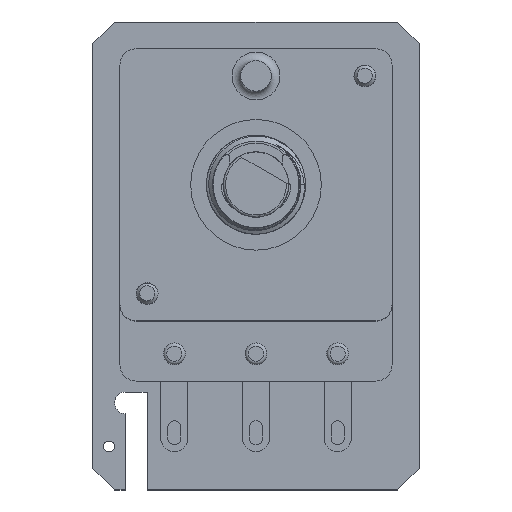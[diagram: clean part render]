
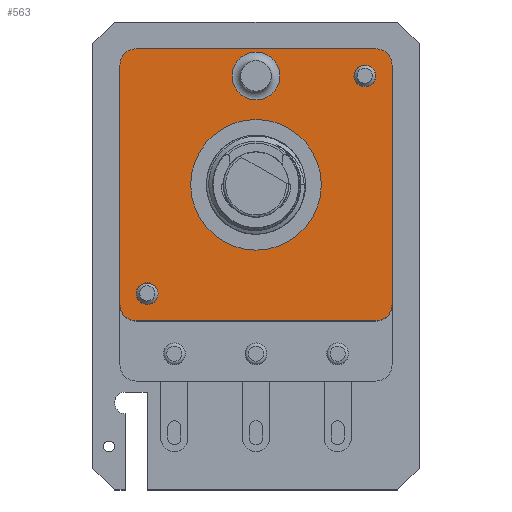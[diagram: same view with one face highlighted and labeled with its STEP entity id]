
A CAD part, top view. The second image highlights one B-rep face of the part: STEP entity #563.
In plain terms, the highlighted planar face has unit normal (0, 0, 1).
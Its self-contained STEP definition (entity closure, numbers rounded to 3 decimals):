
#132 = VERTEX_POINT('',#133);
#133 = CARTESIAN_POINT('',(-12.5,-11.,-1.));
#139 = EDGE_CURVE('',#132,#140,#142,.T.);
#140 = VERTEX_POINT('',#141);
#141 = CARTESIAN_POINT('',(-12.5,11.,-1.));
#142 = LINE('',#143,#144);
#143 = CARTESIAN_POINT('',(-12.5,-12.5,-1.));
#144 = VECTOR('',#145,1.);
#145 = DIRECTION('',(0.,1.,0.));
#220 = VERTEX_POINT('',#221);
#221 = CARTESIAN_POINT('',(-11.,-12.5,-1.));
#227 = EDGE_CURVE('',#132,#220,#228,.T.);
#228 = CIRCLE('',#229,1.5);
#229 = AXIS2_PLACEMENT_3D('',#230,#231,#232);
#230 = CARTESIAN_POINT('',(-11.,-11.,-1.));
#231 = DIRECTION('',(-0.,0.,1.));
#232 = DIRECTION('',(0.,-1.,0.));
#371 = EDGE_CURVE('',#220,#372,#374,.T.);
#372 = VERTEX_POINT('',#373);
#373 = CARTESIAN_POINT('',(11.,-12.5,-1.));
#374 = LINE('',#375,#376);
#375 = CARTESIAN_POINT('',(-12.5,-12.5,-1.));
#376 = VECTOR('',#377,1.);
#377 = DIRECTION('',(1.,0.,0.));
#420 = VERTEX_POINT('',#421);
#421 = CARTESIAN_POINT('',(12.5,-11.,-1.));
#427 = EDGE_CURVE('',#372,#420,#428,.T.);
#428 = CIRCLE('',#429,1.5);
#429 = AXIS2_PLACEMENT_3D('',#430,#431,#432);
#430 = CARTESIAN_POINT('',(11.,-11.,-1.));
#431 = DIRECTION('',(-0.,0.,1.));
#432 = DIRECTION('',(0.,-1.,0.));
#470 = VERTEX_POINT('',#471);
#471 = CARTESIAN_POINT('',(12.5,11.,-1.));
#477 = EDGE_CURVE('',#420,#470,#478,.T.);
#478 = LINE('',#479,#480);
#479 = CARTESIAN_POINT('',(12.5,-12.5,-1.));
#480 = VECTOR('',#481,1.);
#481 = DIRECTION('',(0.,1.,0.));
#563 = ADVANCED_FACE('',(#564,#595,#606,#617,#628),#639,.T.);
#564 = FACE_BOUND('',#565,.T.);
#565 = EDGE_LOOP('',(#566,#567,#568,#569,#570,#571,#580,#588));
#566 = ORIENTED_EDGE('',*,*,#139,.F.);
#567 = ORIENTED_EDGE('',*,*,#227,.T.);
#568 = ORIENTED_EDGE('',*,*,#371,.T.);
#569 = ORIENTED_EDGE('',*,*,#427,.T.);
#570 = ORIENTED_EDGE('',*,*,#477,.T.);
#571 = ORIENTED_EDGE('',*,*,#572,.F.);
#572 = EDGE_CURVE('',#573,#470,#575,.T.);
#573 = VERTEX_POINT('',#574);
#574 = CARTESIAN_POINT('',(11.,12.5,-1.));
#575 = CIRCLE('',#576,1.5);
#576 = AXIS2_PLACEMENT_3D('',#577,#578,#579);
#577 = CARTESIAN_POINT('',(11.,11.,-1.));
#578 = DIRECTION('',(-0.,-0.,-1.));
#579 = DIRECTION('',(0.,-1.,0.));
#580 = ORIENTED_EDGE('',*,*,#581,.F.);
#581 = EDGE_CURVE('',#582,#573,#584,.T.);
#582 = VERTEX_POINT('',#583);
#583 = CARTESIAN_POINT('',(-11.,12.5,-1.));
#584 = LINE('',#585,#586);
#585 = CARTESIAN_POINT('',(-12.5,12.5,-1.));
#586 = VECTOR('',#587,1.);
#587 = DIRECTION('',(1.,0.,0.));
#588 = ORIENTED_EDGE('',*,*,#589,.F.);
#589 = EDGE_CURVE('',#140,#582,#590,.T.);
#590 = CIRCLE('',#591,1.5);
#591 = AXIS2_PLACEMENT_3D('',#592,#593,#594);
#592 = CARTESIAN_POINT('',(-11.,11.,-1.));
#593 = DIRECTION('',(-0.,-0.,-1.));
#594 = DIRECTION('',(0.,-1.,0.));
#595 = FACE_BOUND('',#596,.T.);
#596 = EDGE_LOOP('',(#597));
#597 = ORIENTED_EDGE('',*,*,#598,.T.);
#598 = EDGE_CURVE('',#599,#599,#601,.T.);
#599 = VERTEX_POINT('',#600);
#600 = CARTESIAN_POINT('',(-9.,-10.,-1.));
#601 = CIRCLE('',#602,1.);
#602 = AXIS2_PLACEMENT_3D('',#603,#604,#605);
#603 = CARTESIAN_POINT('',(-10.,-10.,-1.));
#604 = DIRECTION('',(0.,0.,-1.));
#605 = DIRECTION('',(1.,0.,0.));
#606 = FACE_BOUND('',#607,.T.);
#607 = EDGE_LOOP('',(#608));
#608 = ORIENTED_EDGE('',*,*,#609,.F.);
#609 = EDGE_CURVE('',#610,#610,#612,.T.);
#610 = VERTEX_POINT('',#611);
#611 = CARTESIAN_POINT('',(6.,0.,-1.));
#612 = CIRCLE('',#613,6.);
#613 = AXIS2_PLACEMENT_3D('',#614,#615,#616);
#614 = CARTESIAN_POINT('',(0.,0.,-1.));
#615 = DIRECTION('',(0.,0.,1.));
#616 = DIRECTION('',(1.,0.,-0.));
#617 = FACE_BOUND('',#618,.T.);
#618 = EDGE_LOOP('',(#619));
#619 = ORIENTED_EDGE('',*,*,#620,.F.);
#620 = EDGE_CURVE('',#621,#621,#623,.T.);
#621 = VERTEX_POINT('',#622);
#622 = CARTESIAN_POINT('',(2.2,10.,-1.));
#623 = CIRCLE('',#624,2.2);
#624 = AXIS2_PLACEMENT_3D('',#625,#626,#627);
#625 = CARTESIAN_POINT('',(0.,10.,-1.));
#626 = DIRECTION('',(0.,0.,1.));
#627 = DIRECTION('',(1.,0.,-0.));
#628 = FACE_BOUND('',#629,.T.);
#629 = EDGE_LOOP('',(#630));
#630 = ORIENTED_EDGE('',*,*,#631,.T.);
#631 = EDGE_CURVE('',#632,#632,#634,.T.);
#632 = VERTEX_POINT('',#633);
#633 = CARTESIAN_POINT('',(11.,10.,-1.));
#634 = CIRCLE('',#635,1.);
#635 = AXIS2_PLACEMENT_3D('',#636,#637,#638);
#636 = CARTESIAN_POINT('',(10.,10.,-1.));
#637 = DIRECTION('',(0.,0.,-1.));
#638 = DIRECTION('',(1.,0.,0.));
#639 = PLANE('',#640);
#640 = AXIS2_PLACEMENT_3D('',#641,#642,#643);
#641 = CARTESIAN_POINT('',(-12.5,-12.5,-1.));
#642 = DIRECTION('',(0.,0.,1.));
#643 = DIRECTION('',(1.,0.,-0.));
